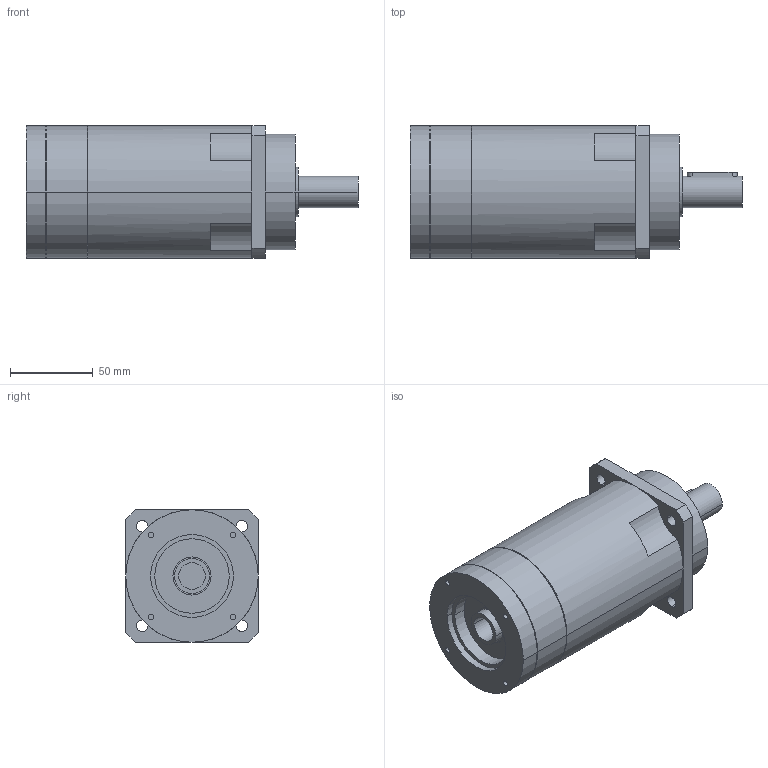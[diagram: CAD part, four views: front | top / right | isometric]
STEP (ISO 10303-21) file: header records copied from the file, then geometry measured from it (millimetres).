
FILE_DESCRIPTION(('CoCreate Modeling STEP Export'),'2;1');
FILE_NAME('GPR100_ig-48-64-80-100-120-144-180-216_19_B5_16_P22.stp','2014-08-26T11:55:50',(''),(''),'CoCreate Modeling STEP processor for AP214 (Solid Model)','CoCreate Modeling 16.00C 25-Feb-2009 (C) Parametric Technology GmbH','');
FILE_SCHEMA(('AUTOMOTIVE_DESIGN { 1 0 10303 214 1 1 1 1 }'));
Length unit declared in the file: millimetre
Products named in the file (2): GPR100_ig-48-64-80-100-120-144-180-216_19_B5_16_P22
Assembly tree (1 placements, depth 2):
  GPR100_ig-48-64-80-100-120-144-180-216_19_B5_16_P22
    GPR100_ig-48-64-80-100-120-144-180-216_19_B5_16_P22
Bounding box: 200.4 x 80 x 80 mm (x, y, z)
Volume: 781538 mm3; surface area: 61928 mm2
Topology: 1 solids, 1 shells, 87 faces, 222 edges, 150 vertices
Faces by surface type: cylinder 50, plane 31, cone 6
Entity records: 2364 total; most frequent: ORIENTED_EDGE 440, CARTESIAN_POINT 428, DIRECTION 346, EDGE_CURVE 220, VERTEX_POINT 150, AXIS2_PLACEMENT_3D 132, EDGE_LOOP 110, FACE_OUTER_BOUND 87
